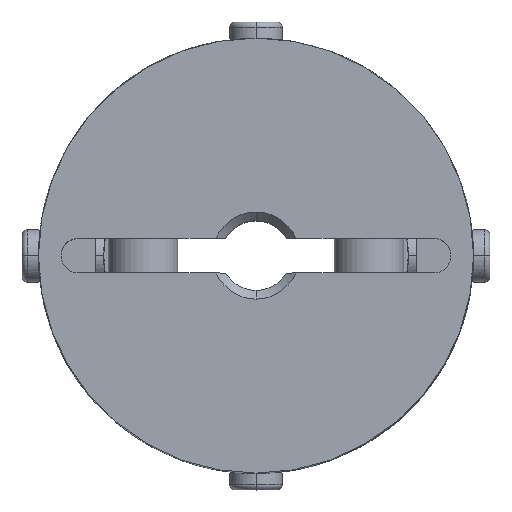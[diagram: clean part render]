
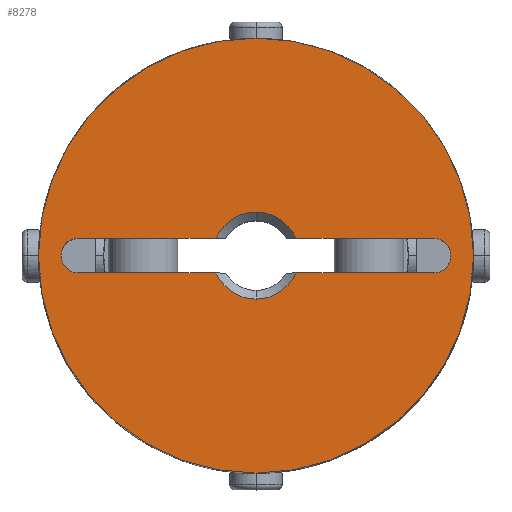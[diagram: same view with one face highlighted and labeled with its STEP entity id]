
A CAD part, top view. The second image highlights one B-rep face of the part: STEP entity #8278.
In plain terms, the highlighted planar face has unit normal (0, 0, 1).
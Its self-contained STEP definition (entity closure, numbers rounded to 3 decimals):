
#885=CARTESIAN_POINT('',(0.,12.5,13.5));
#886=VERTEX_POINT('',#885);
#893=CARTESIAN_POINT('',(0.,-12.5,13.5));
#894=VERTEX_POINT('',#893);
#895=CARTESIAN_POINT('',(0.,0.0,13.5));
#896=DIRECTION('',(0.0,0.0,-1.0));
#897=DIRECTION('',(0.0,-1.0,0.0));
#898=AXIS2_PLACEMENT_3D('',#895,#896,#897);
#899=CIRCLE('',#898,12.5);
#900=EDGE_CURVE('',#886,#894,#899,.T.);
#1153=CARTESIAN_POINT('',(10.907,0.707,13.5));
#1154=VERTEX_POINT('',#1153);
#1170=CARTESIAN_POINT('',(10.2,-1.,13.5));
#1171=VERTEX_POINT('',#1170);
#1178=CARTESIAN_POINT('',(10.2,0.,13.5));
#1179=DIRECTION('',(0.0,0.0,1.0));
#1180=DIRECTION('',(0.707,-0.707,0.0));
#1181=AXIS2_PLACEMENT_3D('',#1178,#1179,#1180);
#1182=CIRCLE('',#1181,1.0);
#1183=EDGE_CURVE('',#1171,#1154,#1182,.T.);
#1195=CARTESIAN_POINT('',(-10.907,-0.707,13.5));
#1196=VERTEX_POINT('',#1195);
#1212=CARTESIAN_POINT('',(-10.2,1.,13.5));
#1213=VERTEX_POINT('',#1212);
#1220=CARTESIAN_POINT('',(-10.2,0.,13.5));
#1221=DIRECTION('',(0.0,0.0,1.0));
#1222=DIRECTION('',(-0.707,0.707,0.0));
#1223=AXIS2_PLACEMENT_3D('',#1220,#1221,#1222);
#1224=CIRCLE('',#1223,1.0);
#1225=EDGE_CURVE('',#1213,#1196,#1224,.T.);
#1235=CARTESIAN_POINT('',(0.,2.5,13.5));
#1236=VERTEX_POINT('',#1235);
#1244=CARTESIAN_POINT('',(2.291,1.,13.5));
#1245=VERTEX_POINT('',#1244);
#1259=CARTESIAN_POINT('',(0.,0.0,13.5));
#1260=DIRECTION('',(0.0,0.0,1.0));
#1261=DIRECTION('',(0.0,1.0,0.0));
#1262=AXIS2_PLACEMENT_3D('',#1259,#1260,#1261);
#1263=CIRCLE('',#1262,2.5);
#1264=EDGE_CURVE('',#1245,#1236,#1263,.T.);
#1276=CARTESIAN_POINT('',(0.,-2.5,13.5));
#1277=VERTEX_POINT('',#1276);
#1293=CARTESIAN_POINT('',(-2.291,-1.,13.5));
#1294=VERTEX_POINT('',#1293);
#1308=CARTESIAN_POINT('',(0.,0.0,13.5));
#1309=DIRECTION('',(0.0,0.0,1.0));
#1310=DIRECTION('',(0.0,-1.0,0.0));
#1311=AXIS2_PLACEMENT_3D('',#1308,#1309,#1310);
#1312=CIRCLE('',#1311,2.5);
#1313=EDGE_CURVE('',#1294,#1277,#1312,.T.);
#8070=CARTESIAN_POINT('',(-10.2,-1.,13.5));
#8071=VERTEX_POINT('',#8070);
#8078=CARTESIAN_POINT('',(-2.291,-1.,13.5));
#8079=DIRECTION('',(-1.0,0.0,0.0));
#8080=VECTOR('',#8079,7.909);
#8081=LINE('',#8078,#8080);
#8082=EDGE_CURVE('',#1294,#8071,#8081,.T.);
#8139=CARTESIAN_POINT('',(-2.291,1.,13.5));
#8140=VERTEX_POINT('',#8139);
#8154=CARTESIAN_POINT('',(-10.2,1.,13.5));
#8155=DIRECTION('',(1.0,0.0,0.0));
#8156=VECTOR('',#8155,7.909);
#8157=LINE('',#8154,#8156);
#8158=EDGE_CURVE('',#1213,#8140,#8157,.T.);
#8175=CARTESIAN_POINT('',(2.291,-1.,13.5));
#8176=VERTEX_POINT('',#8175);
#8177=CARTESIAN_POINT('',(0.,0.0,13.5));
#8178=DIRECTION('',(0.0,0.0,1.0));
#8179=DIRECTION('',(0.0,-1.0,0.0));
#8180=AXIS2_PLACEMENT_3D('',#8177,#8178,#8179);
#8181=CIRCLE('',#8180,2.5);
#8182=EDGE_CURVE('',#1277,#8176,#8181,.T.);
#8209=CARTESIAN_POINT('',(10.2,-1.,13.5));
#8210=DIRECTION('',(-1.0,0.0,0.0));
#8211=VECTOR('',#8210,7.909);
#8212=LINE('',#8209,#8211);
#8213=EDGE_CURVE('',#1171,#8176,#8212,.T.);
#8224=CARTESIAN_POINT('',(0.,-1.136,13.5));
#8225=DIRECTION('',(0.0,0.0,1.0));
#8226=DIRECTION('',(0.0,-1.0,0.0));
#8227=AXIS2_PLACEMENT_3D('',#8224,#8225,#8226);
#8228=PLANE('',#8227);
#8229=CARTESIAN_POINT('',(0.,0.0,13.5));
#8230=DIRECTION('',(0.0,0.0,-1.0));
#8231=DIRECTION('',(0.0,-1.0,0.0));
#8232=AXIS2_PLACEMENT_3D('',#8229,#8230,#8231);
#8233=CIRCLE('',#8232,12.5);
#8234=EDGE_CURVE('',#894,#886,#8233,.T.);
#8235=ORIENTED_EDGE('',*,*,#8234,.F.);
#8236=ORIENTED_EDGE('',*,*,#900,.F.);
#8237=EDGE_LOOP('',(#8235,#8236));
#8238=FACE_OUTER_BOUND('',#8237,.T.);
#8239=ORIENTED_EDGE('',*,*,#1313,.F.);
#8240=ORIENTED_EDGE('',*,*,#8082,.T.);
#8241=CARTESIAN_POINT('',(-10.2,0.,13.5));
#8242=DIRECTION('',(0.0,0.0,1.0));
#8243=DIRECTION('',(-0.707,0.707,0.0));
#8244=AXIS2_PLACEMENT_3D('',#8241,#8242,#8243);
#8245=CIRCLE('',#8244,1.0);
#8246=EDGE_CURVE('',#1196,#8071,#8245,.T.);
#8247=ORIENTED_EDGE('',*,*,#8246,.F.);
#8248=ORIENTED_EDGE('',*,*,#1225,.F.);
#8249=ORIENTED_EDGE('',*,*,#8158,.T.);
#8250=CARTESIAN_POINT('',(0.,0.0,13.5));
#8251=DIRECTION('',(0.0,0.0,1.0));
#8252=DIRECTION('',(0.0,1.0,0.0));
#8253=AXIS2_PLACEMENT_3D('',#8250,#8251,#8252);
#8254=CIRCLE('',#8253,2.5);
#8255=EDGE_CURVE('',#1236,#8140,#8254,.T.);
#8256=ORIENTED_EDGE('',*,*,#8255,.F.);
#8257=ORIENTED_EDGE('',*,*,#1264,.F.);
#8258=CARTESIAN_POINT('',(10.2,1.,13.5));
#8259=VERTEX_POINT('',#8258);
#8260=CARTESIAN_POINT('',(2.291,1.,13.5));
#8261=DIRECTION('',(1.0,0.0,0.0));
#8262=VECTOR('',#8261,7.909);
#8263=LINE('',#8260,#8262);
#8264=EDGE_CURVE('',#1245,#8259,#8263,.T.);
#8265=ORIENTED_EDGE('',*,*,#8264,.T.);
#8266=CARTESIAN_POINT('',(10.2,0.,13.5));
#8267=DIRECTION('',(0.0,0.0,1.0));
#8268=DIRECTION('',(0.707,-0.707,0.0));
#8269=AXIS2_PLACEMENT_3D('',#8266,#8267,#8268);
#8270=CIRCLE('',#8269,1.0);
#8271=EDGE_CURVE('',#1154,#8259,#8270,.T.);
#8272=ORIENTED_EDGE('',*,*,#8271,.F.);
#8273=ORIENTED_EDGE('',*,*,#1183,.F.);
#8274=ORIENTED_EDGE('',*,*,#8213,.T.);
#8275=ORIENTED_EDGE('',*,*,#8182,.F.);
#8276=EDGE_LOOP('',(#8239,#8240,#8247,#8248,#8249,#8256,#8257,#8265,#8272,#8273,#8274,#8275));
#8277=FACE_BOUND('',#8276,.T.);
#8278=ADVANCED_FACE('',(#8238,#8277),#8228,.T.);
